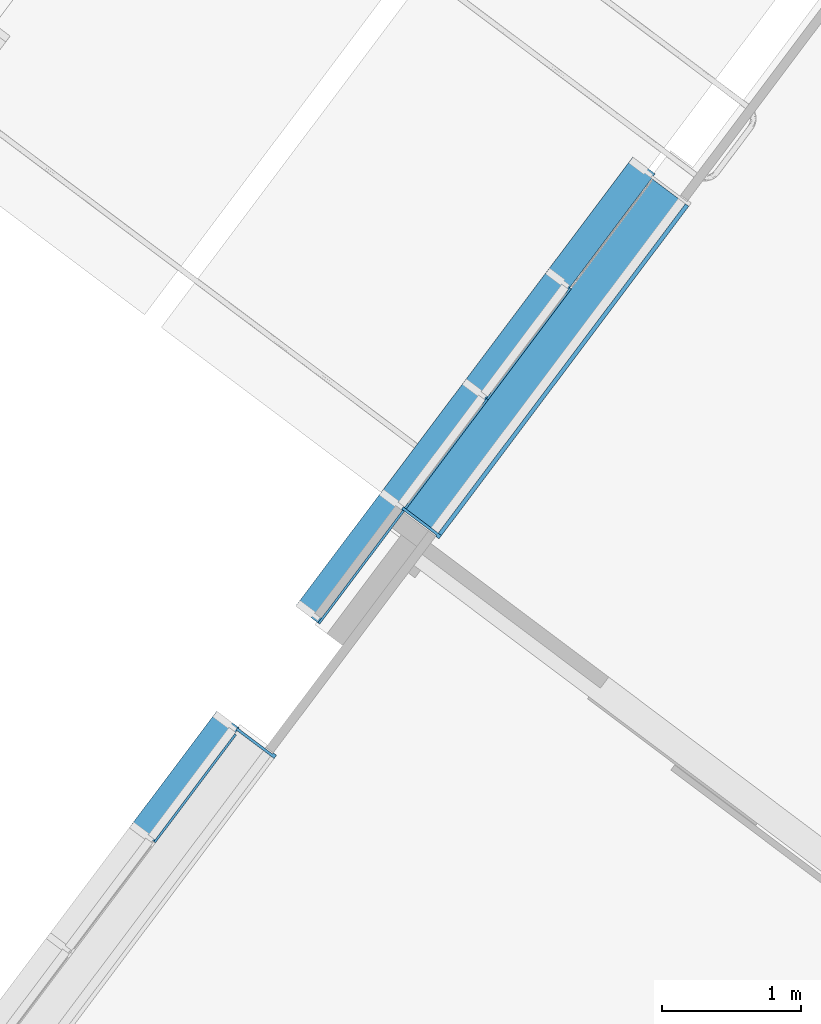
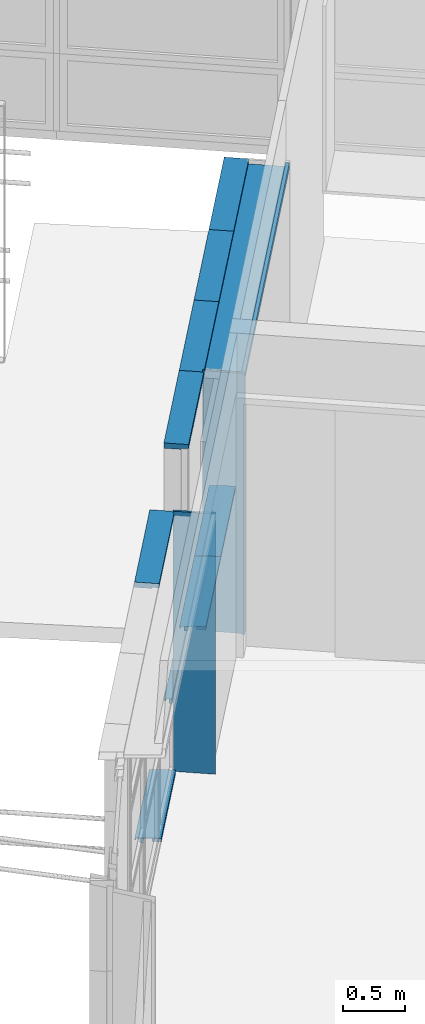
# One storey, part 30 of 243: 12 members, 3 elements without a shape of their own.
"""IFC2X3 building model written with IfcOpenShell, lengths in metres."""

from ifc_helpers import new_model, entity, si_unit, converted_unit, derived_unit, direction, frame, frame_2d, origin, place, context, subcontext, project, spatial, polyline, circle_curve, parameter, trimmed, segment, composite_curve, outline, extrude, source, transform, mapped, material, type_object, type_shapes, element, aggregate, save


model = new_model("IFC2X3")

# Units and contexts
model_context = context("Model", 3, precision=1e-05, world=origin(), true_north=direction((6.123031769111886e-17, 1.0)))
body_context = subcontext(model_context, "Body", "Model", "MODEL_VIEW")
ifc_project = project(units=[si_unit("LENGTHUNIT", "METRE"), si_unit("AREAUNIT", "SQUARE_METRE"), si_unit("VOLUMEUNIT", "CUBIC_METRE"), converted_unit("PLANEANGLEUNIT", "DEGREE", entity("IfcRatioMeasure", 0.017453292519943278), si_unit("PLANEANGLEUNIT", "RADIAN"), dimensions=[0, 0, 0, 0, 0, 0, 0]), si_unit("MASSUNIT", "GRAM", prefix="KILO"), derived_unit("MASSDENSITYUNIT", [(si_unit("MASSUNIT", "GRAM", prefix="KILO"), 1), (si_unit("LENGTHUNIT", "METRE"), -3)]), derived_unit("IONCONCENTRATIONUNIT", [(si_unit("MASSUNIT", "GRAM", prefix="KILO"), 1), (si_unit("LENGTHUNIT", "METRE"), -3)]), derived_unit("MOMENTOFINERTIAUNIT", [(si_unit("LENGTHUNIT", "METRE"), 4)]), si_unit("TIMEUNIT", "SECOND"), si_unit("FREQUENCYUNIT", "HERTZ"), si_unit("THERMODYNAMICTEMPERATUREUNIT", "DEGREE_CELSIUS"), derived_unit("THERMALTRANSMITTANCEUNIT", [(si_unit("MASSUNIT", "GRAM", prefix="KILO"), 1), (si_unit("THERMODYNAMICTEMPERATUREUNIT", "KELVIN"), -1), (si_unit("TIMEUNIT", "SECOND"), -3)]), derived_unit("THERMALCONDUCTANCEUNIT", [(si_unit("MASSUNIT", "GRAM", prefix="KILO"), 1), (si_unit("THERMODYNAMICTEMPERATUREUNIT", "KELVIN"), -1), (si_unit("TIMEUNIT", "SECOND"), -3), (si_unit("LENGTHUNIT", "METRE"), 1)]), derived_unit("VOLUMETRICFLOWRATEUNIT", [(si_unit("LENGTHUNIT", "METRE"), 3), (si_unit("TIMEUNIT", "SECOND"), -1)]), derived_unit("MASSFLOWRATEUNIT", [(si_unit("MASSUNIT", "GRAM", prefix="KILO"), 1), (si_unit("TIMEUNIT", "SECOND"), -1)]), derived_unit("ROTATIONALFREQUENCYUNIT", [(si_unit("TIMEUNIT", "SECOND"), -1)]), si_unit("ELECTRICCURRENTUNIT", "AMPERE"), si_unit("ELECTRICVOLTAGEUNIT", "VOLT"), si_unit("POWERUNIT", "WATT"), si_unit("FORCEUNIT", "NEWTON", prefix="KILO"), si_unit("ILLUMINANCEUNIT", "LUX"), si_unit("LUMINOUSFLUXUNIT", "LUMEN"), si_unit("LUMINOUSINTENSITYUNIT", "CANDELA"), derived_unit("USERDEFINED", [(si_unit("MASSUNIT", "GRAM", prefix="KILO"), -1), (si_unit("LENGTHUNIT", "METRE"), -2), (si_unit("TIMEUNIT", "SECOND"), 3), (si_unit("LUMINOUSFLUXUNIT", "LUMEN"), 1)]), derived_unit("USERDEFINED", [(si_unit("MASSUNIT", "GRAM", prefix="KILO"), 1), (si_unit("TIMEUNIT", "SECOND"), -3), (si_unit("LENGTHUNIT", "METRE"), 3), (si_unit("ELECTRICCURRENTUNIT", "AMPERE"), -2)]), derived_unit("SOUNDPOWERUNIT", [(si_unit("MASSUNIT", "GRAM", prefix="KILO"), 1), (si_unit("TIMEUNIT", "SECOND"), -3), (si_unit("LENGTHUNIT", "METRE"), 2)]), derived_unit("SOUNDPRESSUREUNIT", [(si_unit("MASSUNIT", "GRAM", prefix="KILO"), 1), (si_unit("LENGTHUNIT", "METRE"), -1), (si_unit("TIMEUNIT", "SECOND"), -2)]), derived_unit("LINEARVELOCITYUNIT", [(si_unit("LENGTHUNIT", "METRE"), 1), (si_unit("TIMEUNIT", "SECOND"), -1)]), si_unit("PRESSUREUNIT", "PASCAL"), derived_unit("USERDEFINED", [(si_unit("MASSUNIT", "GRAM", prefix="KILO"), 1), (si_unit("LENGTHUNIT", "METRE"), -2), (si_unit("TIMEUNIT", "SECOND"), -2)]), derived_unit("LINEARFORCEUNIT", [(si_unit("MASSUNIT", "GRAM", prefix="KILO"), 1), (si_unit("TIMEUNIT", "SECOND"), -2)]), derived_unit("PLANARFORCEUNIT", [(si_unit("MASSUNIT", "GRAM", prefix="KILO"), 1), (si_unit("LENGTHUNIT", "METRE"), -1), (si_unit("TIMEUNIT", "SECOND"), -2)]), derived_unit("SPECIFICHEATCAPACITYUNIT", [(si_unit("THERMODYNAMICTEMPERATUREUNIT", "KELVIN"), -1), (si_unit("LENGTHUNIT", "METRE"), 2), (si_unit("TIMEUNIT", "SECOND"), -2)]), derived_unit("HEATINGVALUEUNIT", [(si_unit("LENGTHUNIT", "METRE"), 2), (si_unit("TIMEUNIT", "SECOND"), -2)]), derived_unit("VAPORPERMEABILITYUNIT", [(si_unit("LENGTHUNIT", "METRE"), -1), (si_unit("TIMEUNIT", "SECOND"), 1)]), derived_unit("DYNAMICVISCOSITYUNIT", [(si_unit("MASSUNIT", "GRAM", prefix="KILO"), 1), (si_unit("TIMEUNIT", "SECOND"), -1), (si_unit("LENGTHUNIT", "METRE"), -1)]), derived_unit("THERMALEXPANSIONCOEFFICIENTUNIT", [(si_unit("THERMODYNAMICTEMPERATUREUNIT", "KELVIN"), -1)]), derived_unit("MODULUSOFELASTICITYUNIT", [(si_unit("MASSUNIT", "GRAM", prefix="KILO"), 1), (si_unit("LENGTHUNIT", "METRE"), -1), (si_unit("TIMEUNIT", "SECOND"), -2)]), derived_unit("ISOTHERMALMOISTURECAPACITYUNIT", [(si_unit("LENGTHUNIT", "METRE"), 3), (si_unit("MASSUNIT", "GRAM", prefix="KILO"), -1)]), derived_unit("MOISTUREDIFFUSIVITYUNIT", [(si_unit("TIMEUNIT", "SECOND"), -1), (si_unit("LENGTHUNIT", "METRE"), 2)])], contexts=[model_context])

# Site, building, storey
site_placement = place(None, frame((0.0, 0.0, 235.0), z_axis=(0.0, 0.0, 1.0), x_axis=(-0.7996477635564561, 0.6004693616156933, 0.0)))
site = spatial("IfcSite", under=ifc_project, at=site_placement, Name="Default", CompositionType="ELEMENT")
building_placement = place(site_placement, origin())
building = spatial("IfcBuilding", under=site, at=building_placement, CompositionType="ELEMENT")
storey_placement = place(building_placement, origin())
storey = spatial("IfcBuildingStorey", under=building, at=storey_placement, Name="P0- Escola", CompositionType="ELEMENT", Elevation=0.0)

# Curtain wall, member
curtain_wall_type_1 = type_object("IfcCurtainWallType", Name="Muro cortina:MC- INT- k10- Pati passadís", PredefinedType="NOTDEFINED")
curtain_wall_1_placement = place(storey_placement, origin())
curtain_wall_1 = element("IfcCurtainWall", 1, at=curtain_wall_1_placement, inside=storey, type_object=curtain_wall_type_1, Name="Muro cortina:MC- INT- k10- Pati passadís", ObjectType="Muro cortina:MC- INT- k10- Pati passadís")
ifc_material_1 = material(Name="_Fusta massisa- T1")
member_type_1 = type_object("IfcMemberType", Name="Montante rectangular:MC- Fusta- 35x3 cm- Pati aules- Remat esquerra", PredefinedType="MULLION", material=ifc_material_1)
shared_shape_1 = source(origin(), body_context, "Body", "SweptSolid", [
    extrude(outline(polyline([(-0.12500000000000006, -0.01666666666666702), (0.22000000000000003, -0.01666666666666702), (0.22000000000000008, 0.003333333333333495), (-0.09499999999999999, 0.003333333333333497), (-0.09500000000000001, 0.013333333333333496), (-0.12499999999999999, 0.013333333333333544), (-0.12500000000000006, -0.01666666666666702)])), frame((-0.013333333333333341, -0.030000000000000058, -2.5649999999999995), z_axis=(0.0, 0.0, 1.0), x_axis=(0.0, -1.0, 0.0)), (0.0, 0.0, 1.0), 2.565),
])
type_shapes(member_type_1, [shared_shape_1])
member_1_placement = place(curtain_wall_1_placement, frame((23.645147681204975, -36.39819175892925, 2.565), z_axis=(0.0, 0.0, 1.0), x_axis=(0.0, 1.0, 0.0)))
member_1 = element("IfcMember", 2, at=member_1_placement, type_object=member_type_1, material=ifc_material_1, Name="Montante rectangular:MC- Fusta- 35x3 cm- Pati aules- Remat esquerra", ObjectType="Montante rectangular:MC- Fusta- 35x3 cm- Pati aules- Remat esquerra", context=body_context, shape_type="MappedRepresentation", body=[
    mapped(shared_shape_1, transform((0.0, 0.0, 0.0), scale=1.0)),
])

curtain_wall_2_placement = place(storey_placement, origin())
curtain_wall_2 = element("IfcCurtainWall", 3, at=curtain_wall_2_placement, inside=storey, type_object=curtain_wall_type_1, Name="Muro cortina:MC- INT- k10- Pati passadís", ObjectType="Muro cortina:MC- INT- k10- Pati passadís")
member_type_2 = type_object("IfcMemberType", Name="Montante rectangular:MC- Fusta- 35x3 cm- Pati aules- Remat dreta", PredefinedType="MULLION", material=ifc_material_1)
shared_shape_2 = source(origin(), body_context, "Body", "SweptSolid", [
    extrude(outline(polyline([(-0.12500000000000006, -0.01666666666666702), (0.22000000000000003, -0.01666666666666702), (0.22000000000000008, 0.003333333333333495), (-0.09499999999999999, 0.003333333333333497), (-0.09500000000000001, 0.013333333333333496), (-0.12499999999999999, 0.013333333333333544), (-0.12500000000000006, -0.01666666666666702)])), frame((-0.013333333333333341, -0.030000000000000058, -2.5649999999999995), z_axis=(0.0, 0.0, 1.0), x_axis=(0.0, -1.0, 0.0)), (0.0, 0.0, 1.0), 2.565),
])
type_shapes(member_type_2, [shared_shape_2])
member_2_placement = place(curtain_wall_2_placement, frame((23.645147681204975, -34.44519175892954, 0.0), z_axis=(0.0, 0.0, -1.0), x_axis=(0.0, -1.0, 0.0)))
member_2 = element("IfcMember", 4, at=member_2_placement, type_object=member_type_2, material=ifc_material_1, Name="Montante rectangular:MC- Fusta- 35x3 cm- Pati aules- Remat dreta", ObjectType="Montante rectangular:MC- Fusta- 35x3 cm- Pati aules- Remat dreta", context=body_context, shape_type="MappedRepresentation", body=[
    mapped(shared_shape_2, transform((0.0, 0.0, 0.0), scale=1.0)),
])
aggregate(curtain_wall_2, [member_2])

# Member
member_type_3 = type_object("IfcMemberType", Name="Montante rectangular:MC- Fusta- 35x3 cm- Pati aules- Remat superior", PredefinedType="MULLION", material=ifc_material_1)
shared_shape_3 = source(origin(), body_context, "Body", "SweptSolid", [
    extrude(outline(polyline([(-0.12166666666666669, -0.02666666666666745), (0.21333333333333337, -0.02666666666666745), (0.21333333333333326, -0.006666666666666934), (-0.09166666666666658, -0.006666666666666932), (-0.0916666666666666, 0.03333333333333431), (-0.12166666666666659, 0.03333333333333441), (-0.12166666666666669, -0.02666666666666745)])), frame((-0.033333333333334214, -0.026666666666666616, -2.9720000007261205), z_axis=(0.0, 0.0, 1.0), x_axis=(0.0, -1.0, 0.0)), (0.0, 0.0, 1.0), 2.9720000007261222),
])
type_shapes(member_type_3, [shared_shape_3])
member_3_placement = place(curtain_wall_1_placement, frame((23.645147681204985, -39.400191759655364, 2.565), z_axis=(0.0, -1.0, 0.0), x_axis=(0.0, 0.0, 1.0)))
member_3 = element("IfcMember", 5, at=member_3_placement, type_object=member_type_3, material=ifc_material_1, Name="Montante rectangular:MC- Fusta- 35x3 cm- Pati aules- Remat superior", ObjectType="Montante rectangular:MC- Fusta- 35x3 cm- Pati aules- Remat superior", context=body_context, shape_type="MappedRepresentation", body=[
    mapped(shared_shape_3, transform((0.0, 0.0, 0.0), scale=1.0)),
])

aggregate(curtain_wall_1, [member_3, member_1])

# Curtain wall, members
curtain_wall_type_2 = type_object("IfcCurtainWallType", Name="Muro cortina:MC- EXT- MC2", PredefinedType="NOTDEFINED")
curtain_wall_3_placement = place(storey_placement, origin())
curtain_wall_3 = element("IfcCurtainWall", 6, at=curtain_wall_3_placement, inside=storey, type_object=curtain_wall_type_2, Name="Muro cortina:MC- EXT- MC2", ObjectType="Muro cortina:MC- EXT- MC2")
ifc_material_2 = material(Name="_Alumini- T1- Perfil")
member_type_4 = type_object("IfcMemberType", Name="Montante rectangular:MC- Alu- 140x52,5 cm- Fa patis- inferior", PredefinedType="MULLION", material=ifc_material_2)
shared_shape_4 = source(origin(), body_context, "Body", "SweptSolid", [
    extrude(outline(composite_curve([segment(polyline([(-0.144167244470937, -0.025867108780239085), (-0.12786724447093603, -0.02586710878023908)]), True, "CONTINUOUS"), segment(polyline([(-0.12786724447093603, -0.02586710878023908), (-0.12786724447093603, -0.023167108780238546)]), True, "CONTINUOUS"), segment(polyline([(-0.12786724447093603, -0.023167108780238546), (-0.0678672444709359, -0.023167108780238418)]), True, "CONTINUOUS"), segment(polyline([(-0.0678672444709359, -0.023167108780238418), (0.07031215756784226, -0.010722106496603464)]), True, "CONTINUOUS"), segment(trimmed(circle_curve(frame_2d((0.07013275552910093, -0.008730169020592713), x_axis=(0.0897010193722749, -0.9959687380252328)), 0.0019999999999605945), [parameter(0.0)], [parameter(84.8535928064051)], True, "PARAMETER"), True, "CONTINUOUS"), segment(polyline([(0.07213275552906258, -0.008730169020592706), (0.07213275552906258, 0.006266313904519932)]), True, "CONTINUOUS"), segment(trimmed(circle_curve(frame_2d((0.07013275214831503, 0.006266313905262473), x_axis=(1.0, 0.0)), 0.0020000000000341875), [parameter(0.0)], [parameter(90.00000002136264)], True, "PARAMETER"), True, "CONTINUOUS"), segment(polyline([(0.070132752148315, 0.008266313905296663), (0.06213275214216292, 0.008266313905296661)]), True, "CONTINUOUS"), segment(polyline([(0.06213275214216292, 0.008266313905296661), (0.06213275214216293, 0.006266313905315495)]), True, "CONTINUOUS"), segment(polyline([(0.06213275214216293, 0.006266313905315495), (0.06963275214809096, 0.006266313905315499)]), True, "CONTINUOUS"), segment(trimmed(circle_curve(frame_2d((0.06963275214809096, 0.005766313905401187), x_axis=(0.0, 1.0)), 0.0004999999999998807), [parameter(269.9999999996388)], [parameter(0.0)], True, "PARAMETER"), False, "CONTINUOUS"), segment(polyline([(0.07013275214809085, 0.005766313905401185), (0.07013275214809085, -0.008730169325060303)]), True, "CONTINUOUS"), segment(polyline([(0.07013275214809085, -0.008730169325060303), (0.03213275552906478, -0.012152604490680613)]), True, "CONTINUOUS"), segment(polyline([(0.03213275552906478, -0.0121526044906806), (0.03213275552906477, 0.029132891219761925)]), True, "CONTINUOUS"), segment(polyline([(0.03213275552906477, 0.029132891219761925), (0.0021327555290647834, 0.029132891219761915)]), True, "CONTINUOUS"), segment(polyline([(0.0021327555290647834, 0.029132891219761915), (0.0021327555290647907, 0.02713289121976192)]), True, "CONTINUOUS"), segment(polyline([(0.0021327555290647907, 0.02713289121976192), (0.03013275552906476, 0.02713289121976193)]), True, "CONTINUOUS"), segment(polyline([(0.03013275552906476, 0.027132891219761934), (0.03013275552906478, -0.012332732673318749)]), True, "CONTINUOUS"), segment(polyline([(0.03013275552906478, -0.012332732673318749), (-0.06786724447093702, -0.021159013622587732)]), True, "CONTINUOUS"), segment(polyline([(-0.06786724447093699, -0.02115901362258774), (-0.067867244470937, 0.009132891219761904)]), True, "CONTINUOUS"), segment(polyline([(-0.06786724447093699, 0.009132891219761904), (-0.14416724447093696, 0.009132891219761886)]), True, "CONTINUOUS"), segment(polyline([(-0.14416724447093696, 0.009132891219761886), (-0.144167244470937, -0.025867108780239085)]), True, "CONTINUOUS")], self_intersect=False)), frame((-0.029132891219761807, -0.06786724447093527, -0.9737499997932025), z_axis=(0.0, 0.0, 1.0), x_axis=(0.0, -1.0, 0.0)), (0.0, 0.0, 1.0), 0.9737499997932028),
])
type_shapes(member_type_4, [shared_shape_4])
member_4_placement = place(curtain_wall_3_placement, frame((23.945147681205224, -33.41519175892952, -0.02), z_axis=(0.0, 1.0, 0.0), x_axis=(0.0, 0.0, -1.0)))
member_4 = element("IfcMember", 7, at=member_4_placement, type_object=member_type_4, material=ifc_material_2, Name="Montante rectangular:MC- Alu- 140x52,5 cm- Fa patis- inferior", ObjectType="Montante rectangular:MC- Alu- 140x52,5 cm- Fa patis- inferior", context=body_context, shape_type="MappedRepresentation", body=[
    mapped(shared_shape_4, transform((0.0, 0.0, 0.0), scale=1.0)),
])
member_type_5 = type_object("IfcMemberType", Name="Montante rectangular:MC- Alu- 140x52,5 cm- Fa patis- Superior", PredefinedType="MULLION", material=ifc_material_2)
shared_shape_5 = source(origin(), body_context, "Body", "SweptSolid", [
    extrude(outline(polyline([(-0.026333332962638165, -0.021249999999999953), (0.11366666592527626, -0.021249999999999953), (0.11366666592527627, 0.031250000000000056), (-0.08733333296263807, 0.03125000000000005), (-0.0873333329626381, -0.010000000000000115), (-0.026333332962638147, -0.010000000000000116), (-0.026333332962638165, -0.021249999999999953)])), frame((-0.031250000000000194, -0.02733333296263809, -1.0262500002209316), z_axis=(0.0, 0.0, 1.0), x_axis=(0.0, -1.0, 0.0)), (0.0, 0.0, 1.0), 1.0262500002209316),
])
type_shapes(member_type_5, [shared_shape_5])
member_5_placement = place(curtain_wall_3_placement, frame((23.945147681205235, -39.441441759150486, 2.545), z_axis=(0.0, -1.0, 0.0), x_axis=(0.0, 0.0, 1.0)))
member_5 = element("IfcMember", 8, at=member_5_placement, type_object=member_type_5, material=ifc_material_2, Name="Montante rectangular:MC- Alu- 140x52,5 cm- Fa patis- Superior", ObjectType="Montante rectangular:MC- Alu- 140x52,5 cm- Fa patis- Superior", context=body_context, shape_type="MappedRepresentation", body=[
    mapped(shared_shape_5, transform((0.0, 0.0, 0.0), scale=1.0)),
])
member_6_placement = place(curtain_wall_3_placement, frame((23.945147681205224, -34.44144175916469, 2.545), z_axis=(0.0, -1.0, 0.0), x_axis=(0.0, 0.0, 1.0)))
member_6 = element("IfcMember", 9, at=member_6_placement, type_object=member_type_5, material=ifc_material_2, Name="Montante rectangular:MC- Alu- 140x52,5 cm- Fa patis- Superior", ObjectType="Montante rectangular:MC- Alu- 140x52,5 cm- Fa patis- Superior", context=body_context, shape_type="MappedRepresentation", body=[
    mapped(shared_shape_5, transform((0.0, 0.0, 0.0), scale=1.0)),
])
member_type_6 = type_object("IfcMemberType", Name="Montante rectangular:MC- Alu- 140x52,5 cm- Fa patis- Superior", PredefinedType="MULLION", material=ifc_material_2)
shared_shape_6 = source(origin(), body_context, "Body", "SweptSolid", [
    extrude(outline(polyline([(-0.026333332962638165, -0.021249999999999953), (0.11366666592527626, -0.021249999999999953), (0.11366666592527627, 0.031250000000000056), (-0.08733333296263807, 0.03125000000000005), (-0.0873333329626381, -0.010000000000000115), (-0.026333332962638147, -0.010000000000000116), (-0.026333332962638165, -0.021249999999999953)])), frame((-0.031250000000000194, -0.02733333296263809, -1.0290461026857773), z_axis=(0.0, 0.0, 1.0), x_axis=(0.0, -1.0, 0.0)), (0.0, 0.0, 1.0), 1.0290461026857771),
])
type_shapes(member_type_6, [shared_shape_6])
member_7_placement = place(curtain_wall_3_placement, frame((23.945147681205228, -36.41798786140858, 2.545), z_axis=(0.0, -1.0, 0.0), x_axis=(0.0, 0.0, 1.0)))
member_7 = element("IfcMember", 10, at=member_7_placement, type_object=member_type_6, material=ifc_material_2, Name="Montante rectangular:MC- Alu- 140x52,5 cm- Fa patis- Superior", ObjectType="Montante rectangular:MC- Alu- 140x52,5 cm- Fa patis- Superior", context=body_context, shape_type="MappedRepresentation", body=[
    mapped(shared_shape_6, transform((0.0, 0.0, 0.0), scale=1.0)),
])
member_type_7 = type_object("IfcMemberType", Name="Montante rectangular:MC- Alu- 140x52,5 cm- Fa patis- inferior", PredefinedType="MULLION", material=ifc_material_2)
shared_shape_7 = source(origin(), body_context, "Body", "SweptSolid", [
    extrude(outline(composite_curve([segment(polyline([(-0.144167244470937, -0.02586710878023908), (-0.12786724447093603, -0.025867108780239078)]), True, "CONTINUOUS"), segment(polyline([(-0.12786724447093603, -0.025867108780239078), (-0.12786724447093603, -0.023167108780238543)]), True, "CONTINUOUS"), segment(polyline([(-0.12786724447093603, -0.023167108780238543), (-0.0678672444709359, -0.023167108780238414)]), True, "CONTINUOUS"), segment(polyline([(-0.0678672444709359, -0.023167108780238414), (0.07031215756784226, -0.01072210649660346)]), True, "CONTINUOUS"), segment(trimmed(circle_curve(frame_2d((0.07013275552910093, -0.00873016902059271), x_axis=(0.0897010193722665, -0.9959687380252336)), 0.0019999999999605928), [parameter(0.0)], [parameter(84.85359280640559)], True, "PARAMETER"), True, "CONTINUOUS"), segment(polyline([(0.07213275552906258, -0.008730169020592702), (0.07213275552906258, 0.006266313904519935)]), True, "CONTINUOUS"), segment(trimmed(circle_curve(frame_2d((0.070132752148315, 0.006266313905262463), x_axis=(1.0, 0.0)), 0.0020000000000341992), [parameter(0.0)], [parameter(90.00000002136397)], True, "PARAMETER"), True, "CONTINUOUS"), segment(polyline([(0.070132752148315, 0.008266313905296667), (0.06213275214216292, 0.008266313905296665)]), True, "CONTINUOUS"), segment(polyline([(0.06213275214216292, 0.008266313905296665), (0.06213275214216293, 0.006266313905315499)]), True, "CONTINUOUS"), segment(polyline([(0.06213275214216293, 0.006266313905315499), (0.06963275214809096, 0.006266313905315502)]), True, "CONTINUOUS"), segment(trimmed(circle_curve(frame_2d((0.06963275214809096, 0.00576631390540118), x_axis=(0.0, 1.0)), 0.0004999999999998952), [parameter(269.99999999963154)], [parameter(0.0)], True, "PARAMETER"), False, "CONTINUOUS"), segment(polyline([(0.07013275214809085, 0.005766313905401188), (0.07013275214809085, -0.0087301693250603)]), True, "CONTINUOUS"), segment(polyline([(0.07013275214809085, -0.0087301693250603), (0.03213275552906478, -0.01215260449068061)]), True, "CONTINUOUS"), segment(polyline([(0.03213275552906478, -0.012152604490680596), (0.03213275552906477, 0.02913289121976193)]), True, "CONTINUOUS"), segment(polyline([(0.03213275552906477, 0.02913289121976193), (0.0021327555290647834, 0.029132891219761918)]), True, "CONTINUOUS"), segment(polyline([(0.0021327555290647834, 0.029132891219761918), (0.0021327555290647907, 0.027132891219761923)]), True, "CONTINUOUS"), segment(polyline([(0.0021327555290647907, 0.027132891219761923), (0.03013275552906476, 0.027132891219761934)]), True, "CONTINUOUS"), segment(polyline([(0.03013275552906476, 0.027132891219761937), (0.03013275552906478, -0.012332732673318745)]), True, "CONTINUOUS"), segment(polyline([(0.03013275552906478, -0.012332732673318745), (-0.06786724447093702, -0.02115901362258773)]), True, "CONTINUOUS"), segment(polyline([(-0.06786724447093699, -0.021159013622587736), (-0.067867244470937, 0.009132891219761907)]), True, "CONTINUOUS"), segment(polyline([(-0.06786724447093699, 0.009132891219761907), (-0.14416724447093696, 0.00913289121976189)]), True, "CONTINUOUS"), segment(polyline([(-0.14416724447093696, 0.00913289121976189), (-0.144167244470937, -0.02586710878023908)]), True, "CONTINUOUS")], self_intersect=False)), frame((-0.02913289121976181, -0.06786724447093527, -0.9972038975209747), z_axis=(0.0, 0.0, 1.0), x_axis=(0.0, -1.0, 0.0)), (0.0, 0.0, 1.0), 0.9972038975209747),
])
type_shapes(member_type_7, [shared_shape_7])
member_8_placement = place(curtain_wall_3_placement, frame((23.945147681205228, -36.41798786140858, -0.02), z_axis=(0.0, 1.0, 0.0), x_axis=(0.0, 0.0, -1.0)))
member_8 = element("IfcMember", 11, at=member_8_placement, type_object=member_type_7, material=ifc_material_2, Name="Montante rectangular:MC- Alu- 140x52,5 cm- Fa patis- inferior", ObjectType="Montante rectangular:MC- Alu- 140x52,5 cm- Fa patis- inferior", context=body_context, shape_type="MappedRepresentation", body=[
    mapped(shared_shape_7, transform((0.0, 0.0, 0.0), scale=1.0)),
])
member_type_8 = type_object("IfcMemberType", Name="Montante rectangular:MC- Alu- 140x52,5 cm- Fa patis- Superior", PredefinedType="MULLION", material=ifc_material_2)
shared_shape_8 = source(origin(), body_context, "Body", "SweptSolid", [
    extrude(outline(polyline([(-0.026333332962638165, -0.021249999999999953), (0.11366666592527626, -0.021249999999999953), (0.11366666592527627, 0.031250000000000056), (-0.08733333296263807, 0.03125000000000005), (-0.0873333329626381, -0.010000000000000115), (-0.026333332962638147, -0.010000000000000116), (-0.026333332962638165, -0.021249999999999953)])), frame((-0.031250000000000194, -0.02733333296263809, -1.0), z_axis=(0.0, 0.0, 1.0), x_axis=(0.0, -1.0, 0.0)), (0.0, 0.0, 1.0), 0.9999999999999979),
])
type_shapes(member_type_8, [shared_shape_8])
member_9_placement = place(curtain_wall_3_placement, frame((23.945147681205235, -38.41519175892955, 2.545), z_axis=(0.0, -1.0, 0.0), x_axis=(0.0, 0.0, 1.0)))
member_9 = element("IfcMember", 12, at=member_9_placement, type_object=member_type_8, material=ifc_material_2, Name="Montante rectangular:MC- Alu- 140x52,5 cm- Fa patis- Superior", ObjectType="Montante rectangular:MC- Alu- 140x52,5 cm- Fa patis- Superior", context=body_context, shape_type="MappedRepresentation", body=[
    mapped(shared_shape_8, transform((0.0, 0.0, 0.0), scale=1.0)),
])
member_type_9 = type_object("IfcMemberType", Name="Montante rectangular:MC- Alu- 140x52,5 cm- Fa patis- Superior", PredefinedType="MULLION", material=ifc_material_2)
shared_shape_9 = source(origin(), body_context, "Body", "SweptSolid", [
    extrude(outline(polyline([(-0.026333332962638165, -0.021249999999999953), (0.11366666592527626, -0.021249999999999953), (0.11366666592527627, 0.031250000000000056), (-0.08733333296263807, 0.03125000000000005), (-0.0873333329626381, -0.010000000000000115), (-0.026333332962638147, -0.010000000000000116), (-0.026333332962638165, -0.021249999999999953)])), frame((-0.031250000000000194, -0.02733333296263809, -0.997203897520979), z_axis=(0.0, 0.0, 1.0), x_axis=(0.0, -1.0, 0.0)), (0.0, 0.0, 1.0), 0.997203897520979),
])
type_shapes(member_type_9, [shared_shape_9])
member_10_placement = place(curtain_wall_3_placement, frame((23.945147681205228, -37.41519175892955, 2.545), z_axis=(0.0, -1.0, 0.0), x_axis=(0.0, 0.0, 1.0)))
member_10 = element("IfcMember", 13, at=member_10_placement, type_object=member_type_9, material=ifc_material_2, Name="Montante rectangular:MC- Alu- 140x52,5 cm- Fa patis- Superior", ObjectType="Montante rectangular:MC- Alu- 140x52,5 cm- Fa patis- Superior", context=body_context, shape_type="MappedRepresentation", body=[
    mapped(shared_shape_9, transform((0.0, 0.0, 0.0), scale=1.0)),
])
member_type_10 = type_object("IfcMemberType", Name="Montante rectangular:MC- Alu- 140x52,5 cm- Fa patis- inferior", PredefinedType="MULLION", material=ifc_material_2)
shared_shape_10 = source(origin(), body_context, "Body", "SweptSolid", [
    extrude(outline(composite_curve([segment(polyline([(-0.144167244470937, -0.02586710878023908), (-0.12786724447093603, -0.025867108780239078)]), True, "CONTINUOUS"), segment(polyline([(-0.12786724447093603, -0.025867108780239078), (-0.12786724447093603, -0.023167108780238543)]), True, "CONTINUOUS"), segment(polyline([(-0.12786724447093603, -0.023167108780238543), (-0.0678672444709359, -0.023167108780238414)]), True, "CONTINUOUS"), segment(polyline([(-0.0678672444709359, -0.023167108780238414), (0.07031215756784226, -0.01072210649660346)]), True, "CONTINUOUS"), segment(trimmed(circle_curve(frame_2d((0.07013275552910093, -0.00873016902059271), x_axis=(0.0897010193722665, -0.9959687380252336)), 0.0019999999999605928), [parameter(0.0)], [parameter(84.85359280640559)], True, "PARAMETER"), True, "CONTINUOUS"), segment(polyline([(0.07213275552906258, -0.008730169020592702), (0.07213275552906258, 0.006266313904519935)]), True, "CONTINUOUS"), segment(trimmed(circle_curve(frame_2d((0.070132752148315, 0.0062663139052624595), x_axis=(1.0, 0.0)), 0.0020000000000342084), [parameter(0.0)], [parameter(90.00000002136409)], True, "PARAMETER"), True, "CONTINUOUS"), segment(polyline([(0.070132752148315, 0.008266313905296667), (0.06213275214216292, 0.008266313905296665)]), True, "CONTINUOUS"), segment(polyline([(0.06213275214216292, 0.008266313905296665), (0.06213275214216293, 0.006266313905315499)]), True, "CONTINUOUS"), segment(polyline([(0.06213275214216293, 0.006266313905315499), (0.06963275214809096, 0.006266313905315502)]), True, "CONTINUOUS"), segment(trimmed(circle_curve(frame_2d((0.06963275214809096, 0.005766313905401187), x_axis=(0.0, 1.0)), 0.000499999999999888), [parameter(269.9999999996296)], [parameter(0.0)], True, "PARAMETER"), False, "CONTINUOUS"), segment(polyline([(0.07013275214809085, 0.005766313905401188), (0.07013275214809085, -0.0087301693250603)]), True, "CONTINUOUS"), segment(polyline([(0.07013275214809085, -0.0087301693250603), (0.03213275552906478, -0.01215260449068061)]), True, "CONTINUOUS"), segment(polyline([(0.03213275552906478, -0.012152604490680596), (0.03213275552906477, 0.02913289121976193)]), True, "CONTINUOUS"), segment(polyline([(0.03213275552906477, 0.02913289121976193), (0.0021327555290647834, 0.029132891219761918)]), True, "CONTINUOUS"), segment(polyline([(0.0021327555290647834, 0.029132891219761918), (0.0021327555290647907, 0.027132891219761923)]), True, "CONTINUOUS"), segment(polyline([(0.0021327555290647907, 0.027132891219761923), (0.03013275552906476, 0.027132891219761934)]), True, "CONTINUOUS"), segment(polyline([(0.03013275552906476, 0.027132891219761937), (0.03013275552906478, -0.012332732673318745)]), True, "CONTINUOUS"), segment(polyline([(0.03013275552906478, -0.012332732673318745), (-0.06786724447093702, -0.02115901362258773)]), True, "CONTINUOUS"), segment(polyline([(-0.06786724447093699, -0.021159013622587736), (-0.067867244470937, 0.009132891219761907)]), True, "CONTINUOUS"), segment(polyline([(-0.06786724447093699, 0.009132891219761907), (-0.14416724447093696, 0.00913289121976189)]), True, "CONTINUOUS"), segment(polyline([(-0.14416724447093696, 0.00913289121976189), (-0.144167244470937, -0.02586710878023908)]), True, "CONTINUOUS")], self_intersect=False)), frame((-0.02913289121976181, -0.06786724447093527, -1.0), z_axis=(0.0, 0.0, 1.0), x_axis=(0.0, -1.0, 0.0)), (0.0, 0.0, 1.0), 1.0000000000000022),
])
type_shapes(member_type_10, [shared_shape_10])
member_11_placement = place(curtain_wall_3_placement, frame((23.945147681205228, -37.41519175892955, -0.02), z_axis=(0.0, 1.0, 0.0), x_axis=(0.0, 0.0, -1.0)))
member_11 = element("IfcMember", 14, at=member_11_placement, type_object=member_type_10, material=ifc_material_2, Name="Montante rectangular:MC- Alu- 140x52,5 cm- Fa patis- inferior", ObjectType="Montante rectangular:MC- Alu- 140x52,5 cm- Fa patis- inferior", context=body_context, shape_type="MappedRepresentation", body=[
    mapped(shared_shape_10, transform((0.0, 0.0, 0.0), scale=1.0)),
])
member_type_11 = type_object("IfcMemberType", Name="Montante rectangular:MC- Alu- 140x52,5 cm- Fa patis- inferior", PredefinedType="MULLION", material=ifc_material_2)
shared_shape_11 = source(origin(), body_context, "Body", "SweptSolid", [
    extrude(outline(composite_curve([segment(polyline([(-0.144167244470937, -0.02586710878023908), (-0.12786724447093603, -0.025867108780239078)]), True, "CONTINUOUS"), segment(polyline([(-0.12786724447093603, -0.025867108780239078), (-0.12786724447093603, -0.023167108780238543)]), True, "CONTINUOUS"), segment(polyline([(-0.12786724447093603, -0.023167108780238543), (-0.0678672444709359, -0.023167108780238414)]), True, "CONTINUOUS"), segment(polyline([(-0.0678672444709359, -0.023167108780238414), (0.07031215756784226, -0.01072210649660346)]), True, "CONTINUOUS"), segment(trimmed(circle_curve(frame_2d((0.07013275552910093, -0.008730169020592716), x_axis=(0.0897010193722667, -0.9959687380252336)), 0.001999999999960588), [parameter(0.0)], [parameter(84.85359280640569)], True, "PARAMETER"), True, "CONTINUOUS"), segment(polyline([(0.07213275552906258, -0.008730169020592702), (0.07213275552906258, 0.006266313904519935)]), True, "CONTINUOUS"), segment(trimmed(circle_curve(frame_2d((0.070132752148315, 0.006266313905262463), x_axis=(1.0, 0.0)), 0.0020000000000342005), [parameter(0.0)], [parameter(90.00000002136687)], True, "PARAMETER"), True, "CONTINUOUS"), segment(polyline([(0.070132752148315, 0.008266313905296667), (0.06213275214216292, 0.008266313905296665)]), True, "CONTINUOUS"), segment(polyline([(0.06213275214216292, 0.008266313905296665), (0.06213275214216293, 0.006266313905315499)]), True, "CONTINUOUS"), segment(polyline([(0.06213275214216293, 0.006266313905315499), (0.06963275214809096, 0.006266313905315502)]), True, "CONTINUOUS"), segment(trimmed(circle_curve(frame_2d((0.06963275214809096, 0.005766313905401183), x_axis=(0.0, 1.0)), 0.0004999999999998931), [parameter(269.99999999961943)], [parameter(0.0)], True, "PARAMETER"), False, "CONTINUOUS"), segment(polyline([(0.07013275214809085, 0.005766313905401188), (0.07013275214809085, -0.0087301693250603)]), True, "CONTINUOUS"), segment(polyline([(0.07013275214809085, -0.0087301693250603), (0.03213275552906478, -0.01215260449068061)]), True, "CONTINUOUS"), segment(polyline([(0.03213275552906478, -0.012152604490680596), (0.03213275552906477, 0.02913289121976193)]), True, "CONTINUOUS"), segment(polyline([(0.03213275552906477, 0.02913289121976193), (0.0021327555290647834, 0.029132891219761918)]), True, "CONTINUOUS"), segment(polyline([(0.0021327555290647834, 0.029132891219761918), (0.0021327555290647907, 0.027132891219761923)]), True, "CONTINUOUS"), segment(polyline([(0.0021327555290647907, 0.027132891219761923), (0.03013275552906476, 0.027132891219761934)]), True, "CONTINUOUS"), segment(polyline([(0.03013275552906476, 0.027132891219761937), (0.03013275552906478, -0.012332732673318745)]), True, "CONTINUOUS"), segment(polyline([(0.03013275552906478, -0.012332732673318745), (-0.06786724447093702, -0.02115901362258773)]), True, "CONTINUOUS"), segment(polyline([(-0.06786724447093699, -0.021159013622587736), (-0.067867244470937, 0.009132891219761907)]), True, "CONTINUOUS"), segment(polyline([(-0.06786724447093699, 0.009132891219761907), (-0.14416724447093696, 0.00913289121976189)]), True, "CONTINUOUS"), segment(polyline([(-0.14416724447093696, 0.00913289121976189), (-0.144167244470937, -0.02586710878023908)]), True, "CONTINUOUS")], self_intersect=False)), frame((-0.02913289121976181, -0.06786724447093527, -1.0290461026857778), z_axis=(0.0, 0.0, 1.0), x_axis=(0.0, -1.0, 0.0)), (0.0, 0.0, 1.0), 1.0290461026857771),
])
type_shapes(member_type_11, [shared_shape_11])
member_12_placement = place(curtain_wall_3_placement, frame((23.945147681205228, -35.388941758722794, -0.02), z_axis=(0.0, 1.0, 0.0), x_axis=(0.0, 0.0, -1.0)))
member_12 = element("IfcMember", 15, at=member_12_placement, type_object=member_type_11, material=ifc_material_2, Name="Montante rectangular:MC- Alu- 140x52,5 cm- Fa patis- inferior", ObjectType="Montante rectangular:MC- Alu- 140x52,5 cm- Fa patis- inferior", context=body_context, shape_type="MappedRepresentation", body=[
    mapped(shared_shape_11, transform((0.0, 0.0, 0.0), scale=1.0)),
])
aggregate(curtain_wall_3, [member_5, member_4, member_7, member_8, member_6, member_9, member_10, member_11, member_12])

save(model, "model.ifc")
